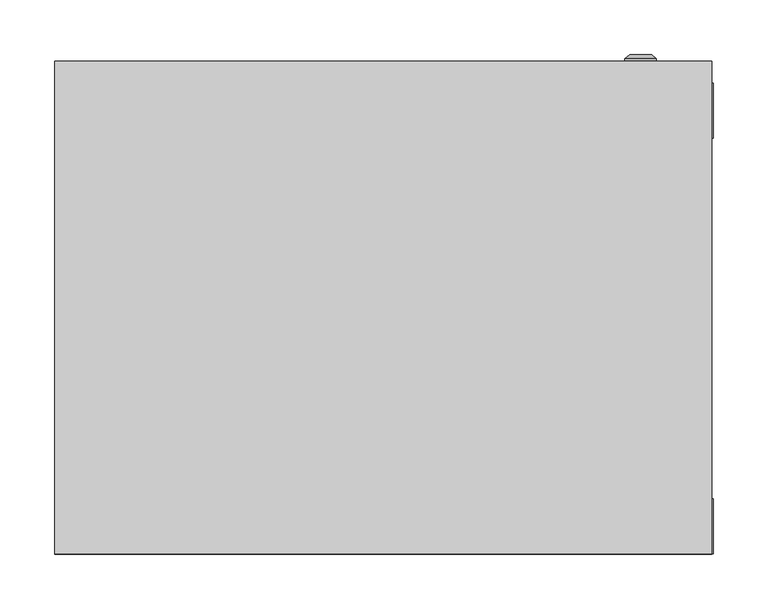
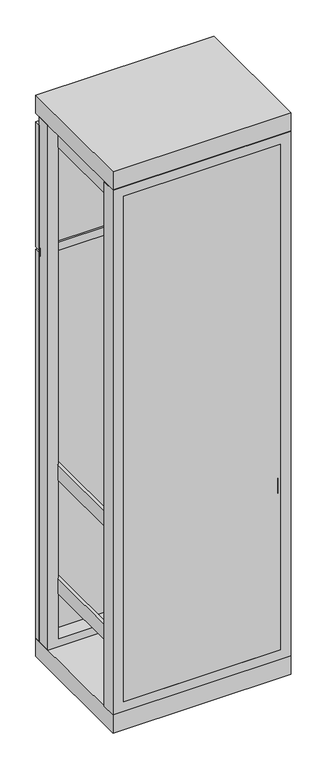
"""IFC4 building model written with IfcOpenShell, lengths in millimetres: proxy geometry, ВРУ-2 : ВРУ-2_2000х600х450."""

from ifc_helpers import new_model, si_unit, frame, origin, origin_with_axes, place, context, project, spatial, polyline, circle_curve, outline, extrude, source, transform, mapped, element, save
from ifc_brep_helpers import plane_surface, cylinder_surface, revolved_surface, advanced_brep


def electrical_equipment_6ca70b5f(model_context):
    return source(origin(), model_context, "Body", "SolidModel", [
        extrude(outline(polyline([(300.0, 425.0), (-300.0, 425.0), (-300.0, 430.0), (300.0, 430.0), (300.0, 425.0)])), frame((0.0, 0.0, 1440.0), z_axis=(0.0, 0.0, 1.0), x_axis=(1.0, 0.0, 0.0)), (0.0, 0.0, 1.0), 30.0),
        advanced_brep(
        [(220.669873, 450.0, 1680.0), (249.330127, 450.0, 1680.0), (235.0, 450.0, 1680.0), (220.669873, 452.366592, 1680.0), (249.330127, 452.366592, 1680.0), (225.0, 456.0, 1680.0), (245.0, 456.0, 1680.0), (233.1080471, 456.0, 1680.0), (236.8919529, 456.0, 1680.0), (233.1080471, 454.9822294, 1680.0), (236.8919529, 454.9822294, 1680.0), (235.0, 454.9822294, 1680.0)],
        [
            (0, 1, circle_curve(frame((235.0, 450.0, 1680.0), z_axis=(0.0, -1.0, 0.0), x_axis=(1.0, 0.0, 0.0)), 14.330127)),
            (1, 2),
            (2, 0),
            (1, 0, circle_curve(frame((235.0, 450.0, 1680.0), z_axis=(0.0, -1.0, 0.0), x_axis=(1.0, 0.0, 0.0)), 14.330127)),
            (3, 4, circle_curve(frame((235.0, 452.366592, 1680.0), z_axis=(0.0, -1.0, 0.0), x_axis=(1.0, 0.0, 0.0)), 14.330127)),
            (4, 1),
            (0, 3),
            (4, 3, circle_curve(frame((235.0, 452.366592, 1680.0), z_axis=(0.0, -1.0, 0.0), x_axis=(1.0, 0.0, 0.0)), 14.330127)),
            (5, 6, circle_curve(frame((235.0, 456.0, 1680.0), z_axis=(0.0, -1.0, 0.0), x_axis=(1.0, 0.0, 0.0)), 10.0)),
            (6, 4),
            (3, 5),
            (6, 5, circle_curve(frame((235.0, 456.0, 1680.0), z_axis=(0.0, -1.0, 0.0), x_axis=(1.0, 0.0, 0.0)), 10.0)),
            (7, 8, circle_curve(frame((235.0, 456.0, 1680.0), z_axis=(0.0, -1.0, 0.0), x_axis=(1.0, 0.0, 0.0)), 1.8919529)),
            (8, 6),
            (5, 7),
            (8, 7, circle_curve(frame((235.0, 456.0, 1680.0), z_axis=(0.0, -1.0, 0.0), x_axis=(1.0, 0.0, 0.0)), 1.8919529)),
            (9, 10, circle_curve(frame((235.0, 454.9822294, 1680.0), z_axis=(0.0, -1.0, 0.0), x_axis=(1.0, 0.0, 0.0)), 1.8919529)),
            (10, 8),
            (7, 9),
            (10, 9, circle_curve(frame((235.0, 454.9822294, 1680.0), z_axis=(0.0, -1.0, 0.0), x_axis=(1.0, 0.0, 0.0)), 1.8919529)),
            (11, 10),
            (9, 11),
        ],
        [
            plane_surface(frame((235.0, 450.0, 1680.0), z_axis=(0.0, -1.0, 0.0), x_axis=(1.0, 0.0, 0.0))),
            cylinder_surface(frame((235.0, 463.1348851, 1680.0), z_axis=(0.0, 1.0, 0.0), x_axis=(1.0, 0.0, 0.0)), 14.330127),
            revolved_surface(polyline([(249.330127, 452.366592, 1680.0), (245.0, 456.0, 1680.0)]), (235.0, 463.1348851, 1680.0), (0.0, 1.0, 0.0)),
            plane_surface(frame((235.0, 456.0, 1680.0), z_axis=(0.0, 1.0, 0.0), x_axis=(1.0, 0.0, 0.0))),
            revolved_surface(polyline([(236.8919529, 456.0, 1680.0), (236.8919529, 454.9822294, 1680.0)]), (235.0, 463.1348851, 1680.0), (0.0, 1.0, 0.0)),
            plane_surface(frame((235.0, 454.9822294, 1680.0), z_axis=(0.0, 1.0, 0.0), x_axis=(1.0, 0.0, 0.0))),
        ],
        [
            (0, [[1, 2, 3]]),
            (0, [[4, -3, -2]]),
            (1, [[5, 6, -1, 7]]),
            (1, [[8, -7, -4, -6]]),
            (2, [[9, 10, -5, 11]]),
            (2, [[12, -11, -8, -10]]),
            (3, [[13, 14, -9, 15]]),
            (3, [[16, -15, -12, -14]]),
            (4, [[17, 18, -13, 19]]),
            (4, [[20, -19, -16, -18]]),
            (5, [[21, -17, 22]]),
            (5, [[-22, -20, -21]]),
        ],
    ),
        extrude(outline(polyline([(300.0, 430.0), (-300.0, 430.0), (-300.0, 450.0), (300.0, 450.0), (300.0, 430.0)])), frame((0.0, 0.0, 1460.0), z_axis=(0.0, 0.0, 1.0), x_axis=(1.0, 0.0, 0.0)), (0.0, 0.0, 1.0), 445.0),
        extrude(outline(polyline([(265.8707865, 0.0), (-263.3426966, 0.0), (-263.3426966, 10.0), (265.8707865, 10.0), (265.8707865, 0.0)])), frame((0.0, 0.0, 99.1378449), z_axis=(0.0, 0.0, 1.0), x_axis=(1.0, 0.0, 0.0)), (0.0, 0.0, 1.0), 1799.6160511),
        extrude(outline(polyline([(-255.8707865, 125.9831461), (-215.8707865, 125.9831461), (-215.8707865, 93.1179775), (-218.8707865, 93.1179775), (-218.8707865, 122.9831461), (-252.8707865, 122.9831461), (-252.8707865, 93.1179775), (-255.8707865, 93.1179775), (-255.8707865, 125.9831461)])), frame((0.0, 0.0, 189.6067416), z_axis=(0.0, 0.0, 1.0), x_axis=(1.0, 0.0, 0.0)), (0.0, 0.0, 1.0), 1745.3932584),
        extrude(outline(polyline([(215.8707865, 125.9831461), (255.8707865, 125.9831461), (255.8707865, 93.1179775), (252.8707865, 93.1179775), (252.8707865, 122.9831461), (218.8707865, 122.9831461), (218.8707865, 93.1179775), (215.8707865, 93.1179775), (215.8707865, 125.9831461)])), frame((0.0, 0.0, 189.6067416), z_axis=(0.0, 0.0, 1.0), x_axis=(1.0, 0.0, 0.0)), (0.0, 0.0, 1.0), 1745.3932584),
        extrude(outline(polyline([(-255.8707865, 10.0), (-265.8707865, 10.0), (-265.8707865, 430.0), (-255.8707865, 430.0), (-255.8707865, 10.0)])), frame((0.0, 0.0, 1845.5966059), z_axis=(0.0, 0.0, 1.0), x_axis=(1.0, 0.0, 0.0)), (0.0, 0.0, 1.0), 53.0898876),
        extrude(outline(polyline([(265.8707865, 10.0), (255.8707865, 10.0), (255.8707865, 430.0), (265.8707865, 430.0), (265.8707865, 10.0)])), frame((0.0, 0.0, 1845.5966059), z_axis=(0.0, 0.0, 1.0), x_axis=(1.0, 0.0, 0.0)), (0.0, 0.0, 1.0), 53.0898876),
        extrude(outline(polyline([(-255.8707865, 10.0), (-265.8707865, 10.0), (-265.8707865, 430.0), (-255.8707865, 430.0), (-255.8707865, 10.0)])), frame((0.0, 0.0, 255.5966059), z_axis=(0.0, 0.0, 1.0), x_axis=(1.0, 0.0, 0.0)), (0.0, 0.0, 1.0), 53.0898876),
        extrude(outline(polyline([(265.8707865, 10.0), (255.8707865, 10.0), (255.8707865, 430.0), (265.8707865, 430.0), (265.8707865, 10.0)])), frame((0.0, 0.0, 255.5966059), z_axis=(0.0, 0.0, 1.0), x_axis=(1.0, 0.0, 0.0)), (0.0, 0.0, 1.0), 53.0898876),
        extrude(outline(polyline([(-255.8707865, 10.0), (-265.8707865, 10.0), (-265.8707865, 430.0), (-255.8707865, 430.0), (-255.8707865, 10.0)])), frame((0.0, 0.0, 660.5966059), z_axis=(0.0, 0.0, 1.0), x_axis=(1.0, 0.0, 0.0)), (0.0, 0.0, 1.0), 53.0898876),
        extrude(outline(polyline([(265.8707865, 0.0), (255.8707865, 0.0), (255.8707865, 430.0), (265.8707865, 430.0), (265.8707865, 0.0)])), frame((0.0, 0.0, 660.5966059), z_axis=(0.0, 0.0, 1.0), x_axis=(1.0, 0.0, 0.0)), (0.0, 0.0, 1.0), 53.0898876),
        extrude(outline(polyline([(1934.1471543, -300.0), (65.0187804, -300.0), (65.0187804, 301.2640449), (1934.1471543, 301.2640449), (1934.1471543, -300.0)]), holes=[polyline([(99.1378449, 265.8707865), (99.1378449, -263.3426966), (1898.7538959, -263.3426966), (1898.7538959, 265.8707865), (99.1378449, 265.8707865)])]), frame((0.0, 0.0, 0.0), z_axis=(0.0, 1.0, 0.0), x_axis=(0.0, 0.0, 1.0)), (0.0, 0.0, 1.0), 50.0),
        extrude(outline(polyline([(1935.0, -300.0), (65.0187804, -300.0), (65.0187804, 301.2640449), (1935.0, 301.2640449), (1935.0, -300.0)]), holes=[polyline([(93.3701084, 265.8707865), (93.3701084, -263.3426966), (1892.9861595, -263.3426966), (1892.9861595, 265.8707865), (93.3701084, 265.8707865)])]), frame((0.0, 380.0, 0.0), z_axis=(0.0, 1.0, 0.0), x_axis=(0.0, 0.0, 1.0)), (0.0, 0.0, 1.0), 50.0),
        extrude(outline(polyline([(300.0067809, 450.0), (300.0067809, 0.0), (-300.0, 0.0), (-300.0, 450.0), (300.0067809, 450.0)])), frame((0.0, 0.0, 1935.0), z_axis=(0.0, 0.0, 1.0), x_axis=(1.0, 0.0, 0.0)), (0.0, 0.0, 1.0), 65.0),
        advanced_brep(
        [(220.669873, 450.0, 375.0), (249.330127, 450.0, 375.0), (235.0, 450.0, 375.0), (220.669873, 452.366592, 375.0), (249.330127, 452.366592, 375.0), (225.0, 456.0, 375.0), (245.0, 456.0, 375.0), (233.1080471, 456.0, 375.0), (236.8919529, 456.0, 375.0), (233.1080471, 454.9822294, 375.0), (236.8919529, 454.9822294, 375.0), (235.0, 454.9822294, 375.0)],
        [
            (0, 1, circle_curve(frame((235.0, 450.0, 375.0), z_axis=(0.0, -1.0, 0.0), x_axis=(1.0, 0.0, 0.0)), 14.330127)),
            (1, 2),
            (2, 0),
            (1, 0, circle_curve(frame((235.0, 450.0, 375.0), z_axis=(0.0, -1.0, 0.0), x_axis=(1.0, 0.0, 0.0)), 14.330127)),
            (3, 4, circle_curve(frame((235.0, 452.366592, 375.0), z_axis=(0.0, -1.0, 0.0), x_axis=(1.0, 0.0, 0.0)), 14.330127)),
            (4, 1),
            (0, 3),
            (4, 3, circle_curve(frame((235.0, 452.366592, 375.0), z_axis=(0.0, -1.0, 0.0), x_axis=(1.0, 0.0, 0.0)), 14.330127)),
            (5, 6, circle_curve(frame((235.0, 456.0, 375.0), z_axis=(0.0, -1.0, 0.0), x_axis=(1.0, 0.0, 0.0)), 10.0)),
            (6, 4),
            (3, 5),
            (6, 5, circle_curve(frame((235.0, 456.0, 375.0), z_axis=(0.0, -1.0, 0.0), x_axis=(1.0, 0.0, 0.0)), 10.0)),
            (7, 8, circle_curve(frame((235.0, 456.0, 375.0), z_axis=(0.0, -1.0, 0.0), x_axis=(1.0, 0.0, 0.0)), 1.8919529)),
            (8, 6),
            (5, 7),
            (8, 7, circle_curve(frame((235.0, 456.0, 375.0), z_axis=(0.0, -1.0, 0.0), x_axis=(1.0, 0.0, 0.0)), 1.8919529)),
            (9, 10, circle_curve(frame((235.0, 454.9822294, 375.0), z_axis=(0.0, -1.0, 0.0), x_axis=(1.0, 0.0, 0.0)), 1.8919529)),
            (10, 8),
            (7, 9),
            (10, 9, circle_curve(frame((235.0, 454.9822294, 375.0), z_axis=(0.0, -1.0, 0.0), x_axis=(1.0, 0.0, 0.0)), 1.8919529)),
            (11, 10),
            (9, 11),
        ],
        [
            plane_surface(frame((235.0, 450.0, 375.0), z_axis=(0.0, -1.0, 0.0), x_axis=(1.0, 0.0, 0.0))),
            cylinder_surface(frame((235.0, 463.1348851, 375.0), z_axis=(0.0, 1.0, 0.0), x_axis=(1.0, 0.0, 0.0)), 14.330127),
            revolved_surface(polyline([(249.330127, 452.366592, 375.0), (245.0, 456.0, 375.0)]), (235.0, 463.1348851, 375.0), (0.0, 1.0, 0.0)),
            plane_surface(frame((235.0, 456.0, 375.0), z_axis=(0.0, 1.0, 0.0), x_axis=(1.0, 0.0, 0.0))),
            revolved_surface(polyline([(236.8919529, 456.0, 375.0), (236.8919529, 454.9822294, 375.0)]), (235.0, 463.1348851, 375.0), (0.0, 1.0, 0.0)),
            plane_surface(frame((235.0, 454.9822294, 375.0), z_axis=(0.0, 1.0, 0.0), x_axis=(1.0, 0.0, 0.0))),
        ],
        [
            (0, [[1, 2, 3]]),
            (0, [[4, -3, -2]]),
            (1, [[5, 6, -1, 7]]),
            (1, [[8, -7, -4, -6]]),
            (2, [[9, 10, -5, 11]]),
            (2, [[12, -11, -8, -10]]),
            (3, [[13, 14, -9, 15]]),
            (3, [[16, -15, -12, -14]]),
            (4, [[17, 18, -13, 19]]),
            (4, [[20, -19, -16, -18]]),
            (5, [[21, -17, 22]]),
            (5, [[-22, -20, -21]]),
        ],
    ),
        advanced_brep(
        [(220.669873, 450.0, 880.0), (249.330127, 450.0, 880.0), (235.0, 450.0, 880.0), (220.669873, 452.366592, 880.0), (249.330127, 452.366592, 880.0), (225.0, 456.0, 880.0), (245.0, 456.0, 880.0), (233.1080471, 456.0, 880.0), (236.8919529, 456.0, 880.0), (233.1080471, 454.9822294, 880.0), (236.8919529, 454.9822294, 880.0), (235.0, 454.9822294, 880.0)],
        [
            (0, 1, circle_curve(frame((235.0, 450.0, 880.0), z_axis=(0.0, -1.0, 0.0), x_axis=(1.0, 0.0, 0.0)), 14.330127)),
            (1, 2),
            (2, 0),
            (1, 0, circle_curve(frame((235.0, 450.0, 880.0), z_axis=(0.0, -1.0, 0.0), x_axis=(1.0, 0.0, 0.0)), 14.330127)),
            (3, 4, circle_curve(frame((235.0, 452.366592, 880.0), z_axis=(0.0, -1.0, 0.0), x_axis=(1.0, 0.0, 0.0)), 14.330127)),
            (4, 1),
            (0, 3),
            (4, 3, circle_curve(frame((235.0, 452.366592, 880.0), z_axis=(0.0, -1.0, 0.0), x_axis=(1.0, 0.0, 0.0)), 14.330127)),
            (5, 6, circle_curve(frame((235.0, 456.0, 880.0), z_axis=(0.0, -1.0, 0.0), x_axis=(1.0, 0.0, 0.0)), 10.0)),
            (6, 4),
            (3, 5),
            (6, 5, circle_curve(frame((235.0, 456.0, 880.0), z_axis=(0.0, -1.0, 0.0), x_axis=(1.0, 0.0, 0.0)), 10.0)),
            (7, 8, circle_curve(frame((235.0, 456.0, 880.0), z_axis=(0.0, -1.0, 0.0), x_axis=(1.0, 0.0, 0.0)), 1.8919529)),
            (8, 6),
            (5, 7),
            (8, 7, circle_curve(frame((235.0, 456.0, 880.0), z_axis=(0.0, -1.0, 0.0), x_axis=(1.0, 0.0, 0.0)), 1.8919529)),
            (9, 10, circle_curve(frame((235.0, 454.9822294, 880.0), z_axis=(0.0, -1.0, 0.0), x_axis=(1.0, 0.0, 0.0)), 1.8919529)),
            (10, 8),
            (7, 9),
            (10, 9, circle_curve(frame((235.0, 454.9822294, 880.0), z_axis=(0.0, -1.0, 0.0), x_axis=(1.0, 0.0, 0.0)), 1.8919529)),
            (11, 10),
            (9, 11),
        ],
        [
            plane_surface(frame((235.0, 450.0, 880.0), z_axis=(0.0, -1.0, 0.0), x_axis=(1.0, 0.0, 0.0))),
            cylinder_surface(frame((235.0, 463.1348851, 880.0), z_axis=(0.0, 1.0, 0.0), x_axis=(1.0, 0.0, 0.0)), 14.330127),
            revolved_surface(polyline([(249.330127, 452.366592, 880.0), (245.0, 456.0, 880.0)]), (235.0, 463.1348851, 880.0), (0.0, 1.0, 0.0)),
            plane_surface(frame((235.0, 456.0, 880.0), z_axis=(0.0, 1.0, 0.0), x_axis=(1.0, 0.0, 0.0))),
            revolved_surface(polyline([(236.8919529, 456.0, 880.0), (236.8919529, 454.9822294, 880.0)]), (235.0, 463.1348851, 880.0), (0.0, 1.0, 0.0)),
            plane_surface(frame((235.0, 454.9822294, 880.0), z_axis=(0.0, 1.0, 0.0), x_axis=(1.0, 0.0, 0.0))),
        ],
        [
            (0, [[1, 2, 3]]),
            (0, [[4, -3, -2]]),
            (1, [[5, 6, -1, 7]]),
            (1, [[8, -7, -4, -6]]),
            (2, [[9, 10, -5, 11]]),
            (2, [[12, -11, -8, -10]]),
            (3, [[13, 14, -9, 15]]),
            (3, [[16, -15, -12, -14]]),
            (4, [[17, 18, -13, 19]]),
            (4, [[20, -19, -16, -18]]),
            (5, [[21, -17, 22]]),
            (5, [[-22, -20, -21]]),
        ],
    ),
        extrude(outline(polyline([(300.0067809, 450.0), (300.0067809, 0.0), (-300.0, 0.0), (-300.0, 450.0), (300.0067809, 450.0)])), origin_with_axes(), (0.0, 0.0, 1.0), 65.0187804),
        extrude(outline(polyline([(300.0, 430.0), (-300.0, 430.0), (-300.0, 450.0), (300.0, 450.0), (300.0, 430.0)])), frame((0.0, 0.0, 65.0187804), z_axis=(0.0, 0.0, 1.0), x_axis=(1.0, 0.0, 0.0)), (0.0, 0.0, 1.0), 1384.9812196),
    ])


if __name__ == "__main__":
    model = new_model("IFC4")
    model_context = context("Model", 3, world=origin())
    ifc_project = project(units=[si_unit("LENGTHUNIT", "METRE", prefix="MILLI")], contexts=[model_context])
    site = spatial("IfcSite", under=ifc_project)
    building = spatial("IfcBuilding", under=site)
    placement = place(None, origin())
    electrical_equipment_shape = electrical_equipment_6ca70b5f(model_context)
    element("IfcBuildingElementProxy", 1, Name="ВРУ-2 : ВРУ-2_2000х600х450", ObjectType="ВРУ-2 : ВРУ-2_2000х600х450", at=placement, inside=building, context=model_context, shape_type="MappedRepresentation", body=[
        mapped(electrical_equipment_shape, transform((0.0, 0.0, 0.0), x_axis=(1.0, 0.0, 0.0), y_axis=(0.0, 1.0, 0.0), z_axis=(0.0, 0.0, 1.0))),
    ])
    save(model, "model.ifc")
